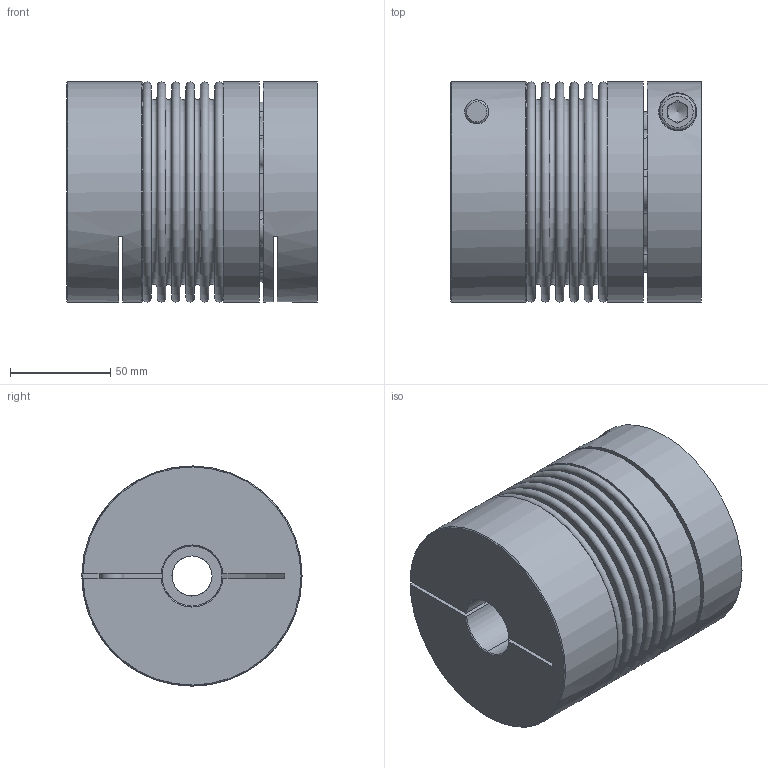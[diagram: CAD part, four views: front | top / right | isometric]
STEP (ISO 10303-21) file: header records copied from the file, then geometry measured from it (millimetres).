
FILE_DESCRIPTION( ( 'Unknown' ), '1' );
FILE_NAME( 'C:/Users/skarpstein/Desktop/KB4P/KB4P/KB4P-300-125.stp', 'Unknown', ( 'Unknown' ), ( 'Unknown' ), 'PSStep 16.0.42', 'Unknown', ' ' );
FILE_SCHEMA( ( 'AUTOMOTIVE_DESIGN { 1 0 10303 214 1 1 1 1 }' ) );
Length unit declared in the file: millimetre
Products named in the file (6): Assem1; KN300_Standard_1; Socket Head Cap Screw_DIN_DIN 912 M12 x 40 --- 40N; Stecknabe KB4P-300; Balgaufnahme KB4P-300; BL300_Standard_0
Assembly tree (6 placements, depth 2):
  Assem1
    KN300_Standard_1
    Socket Head Cap Screw_DIN_DIN 912 M12 x 40 --- 40N  x2
    Stecknabe KB4P-300
    Balgaufnahme KB4P-300
    BL300_Standard_0
Bounding box: 125.2 x 110 x 110 mm (x, y, z)
Volume: 752151.4 mm3; surface area: 208679.1 mm2
Topology: 6 solids, 6 shells, 184 faces, 418 edges, 273 vertices
Faces by surface type: plane 77, cone 56, torus 26, cylinder 25
Full cylindrical faces by diameter (mm): 10.106 x1, 12 x3, 12.5 x2, 18 x2, 19 x2, 20 x1, 30 x1, 99.8 x2, 101 x2, 110 x3
Entity records: 6161 total; most frequent: CARTESIAN_POINT 1107, DIRECTION 840, ORIENTED_EDGE 630, AXIS2_PLACEMENT_3D 369, EDGE_CURVE 315, EDGE_LOOP 247, VERTEX_POINT 247, FACE_OUTER_BOUND 202
